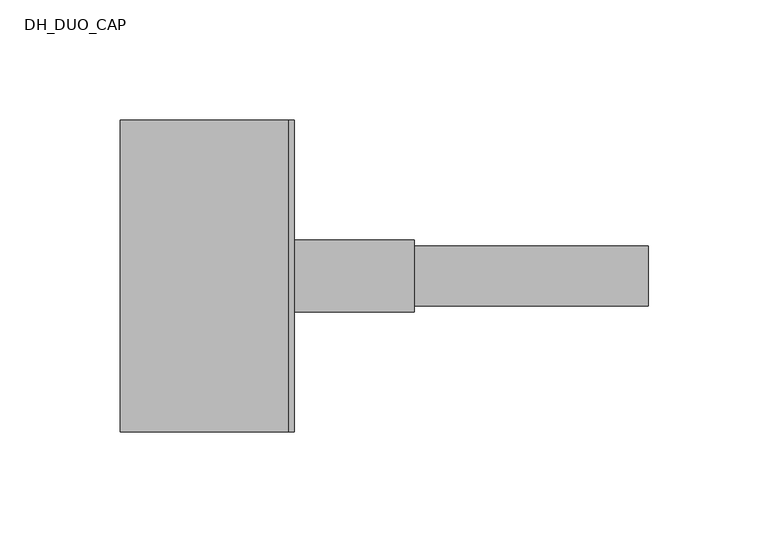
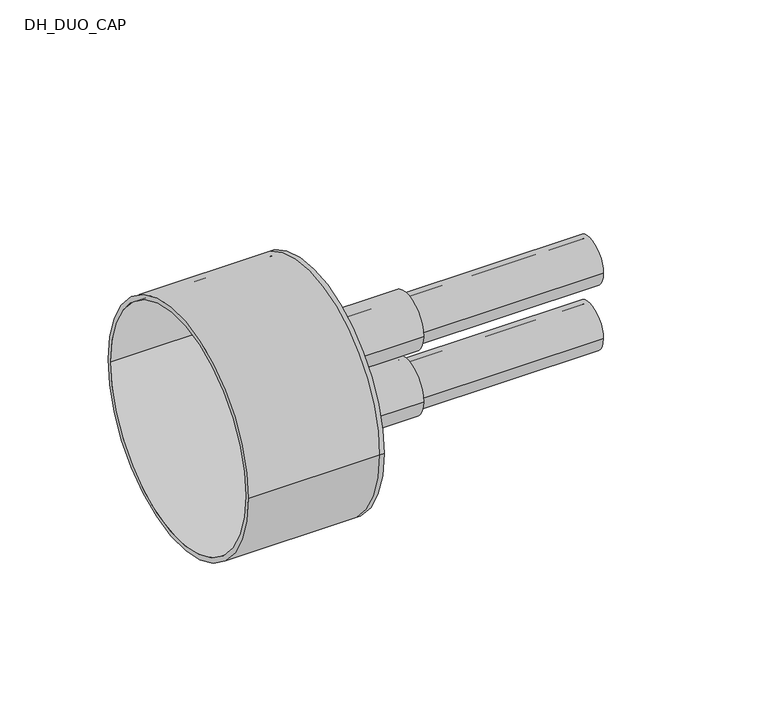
"""IFC4 building model written with IfcOpenShell, lengths in millimetres: pipe fitting geometry, DH_DUO_CAP : RAUVIPEX DUO 11 Heating - Rubber Cap."""

from ifc_helpers import new_model, si_unit, point, frame, frame_2d, origin, place, context, project, spatial, polyline, circle_curve, trimmed, segment, composite_curve, outline, extrude, source, transform, mapped, element, save
from ifc_brep_helpers import plane_surface, cylinder_surface, revolved_surface, advanced_brep


def dh_duo_cap_ada487e7(model_context):
    return source(origin(), model_context, "Body", "SolidModel", [
        extrude(outline(composite_curve([segment(trimmed(circle_curve(frame_2d((0.0, -18.5)), 12.5), [point((-12.5, -18.5))], [point((12.5, -18.5))], False, "CARTESIAN"), True, "CONTINUOUS"), segment(trimmed(circle_curve(frame_2d((0.0, -18.5)), 12.5), [point((12.5, -18.5))], [point((-12.5, -18.5))], False, "CARTESIAN"), True, "CONTINUOUS")], self_intersect=False), holes=[composite_curve([segment(trimmed(circle_curve(frame_2d((0.0, -18.5)), 10.2), [point((-10.2, -18.5))], [point((10.2, -18.5))], True, "CARTESIAN"), True, "CONTINUOUS"), segment(trimmed(circle_curve(frame_2d((0.0, -18.5)), 10.2), [point((10.2, -18.5))], [point((-10.2, -18.5))], True, "CARTESIAN"), True, "CONTINUOUS")], self_intersect=False)]), frame((0.0, 0.0, 0.0), z_axis=(1.0, 0.0, 0.0), x_axis=(0.0, 1.0, 0.0)), (0.0, 0.0, 1.0), 150.0),
        extrude(outline(composite_curve([segment(trimmed(circle_curve(frame_2d((0.0, 18.5)), 12.5), [point((-12.5, 18.5))], [point((12.5, 18.5))], False, "CARTESIAN"), True, "CONTINUOUS"), segment(trimmed(circle_curve(frame_2d((0.0, 18.5)), 12.5), [point((12.5, 18.5))], [point((-12.5, 18.5))], False, "CARTESIAN"), True, "CONTINUOUS")], self_intersect=False), holes=[composite_curve([segment(trimmed(circle_curve(frame_2d((0.0, 18.5)), 10.2), [point((-10.2, 18.5))], [point((10.2, 18.5))], True, "CARTESIAN"), True, "CONTINUOUS"), segment(trimmed(circle_curve(frame_2d((0.0, 18.5)), 10.2), [point((10.2, 18.5))], [point((-10.2, 18.5))], True, "CARTESIAN"), True, "CONTINUOUS")], self_intersect=False)]), frame((0.0, 0.0, 0.0), z_axis=(1.0, 0.0, 0.0), x_axis=(0.0, 1.0, 0.0)), (0.0, 0.0, 1.0), 150.0),
        advanced_brep(
        [(-70.0, -65.0, 0.0), (-70.0, 65.0, 0.0), (-70.0, -62.5, 0.0), (-70.0, 62.5, 0.0), (0.0, -62.5, 0.0), (0.0, 62.5, 0.0), (0.0, -65.0, 0.0), (0.0, 65.0, 0.0), (0.0, 12.5, 18.5), (0.0, -12.5, 18.5), (0.0, 12.5, -18.5), (0.0, -12.5, -18.5), (2.5, -65.0, 0.0), (2.5, 65.0, 0.0), (2.5, -12.5, 18.5), (2.5, 12.5, 18.5), (2.5, -12.5, -18.5), (2.5, 12.5, -18.5)],
        [
            (0, 1, circle_curve(frame((-70.0, 0.0, 0.0), z_axis=(-1.0, 0.0, 0.0), x_axis=(0.0, 1.0, 0.0)), 65.0)),
            (1, 0, circle_curve(frame((-70.0, 0.0, 0.0), z_axis=(-1.0, 0.0, 0.0), x_axis=(0.0, 1.0, 0.0)), 65.0)),
            (2, 3, circle_curve(frame((-70.0, 0.0, 0.0), z_axis=(1.0, 0.0, 0.0), x_axis=(0.0, 1.0, 0.0)), 62.5)),
            (3, 2, circle_curve(frame((-70.0, 0.0, 0.0), z_axis=(1.0, 0.0, 0.0), x_axis=(0.0, 1.0, 0.0)), 62.5)),
            (2, 4),
            (4, 5, circle_curve(frame((0.0, 0.0, 0.0), z_axis=(1.0, 0.0, 0.0), x_axis=(0.0, 1.0, 0.0)), 62.5)),
            (5, 3),
            (5, 4, circle_curve(frame((0.0, 0.0, 0.0), z_axis=(1.0, 0.0, 0.0), x_axis=(0.0, 1.0, 0.0)), 62.5)),
            (0, 6),
            (6, 7, circle_curve(frame((0.0, 0.0, 0.0), z_axis=(-1.0, 0.0, 0.0), x_axis=(0.0, 1.0, 0.0)), 65.0)),
            (7, 1),
            (7, 6, circle_curve(frame((0.0, 0.0, 0.0), z_axis=(-1.0, 0.0, 0.0), x_axis=(0.0, 1.0, 0.0)), 65.0)),
            (8, 9, circle_curve(frame((0.0, 0.0, 18.5), z_axis=(1.0, 0.0, 0.0), x_axis=(0.0, 1.0, 0.0)), 12.5)),
            (9, 8, circle_curve(frame((0.0, 0.0, 18.5), z_axis=(1.0, 0.0, 0.0), x_axis=(0.0, 1.0, 0.0)), 12.5)),
            (10, 11, circle_curve(frame((0.0, 0.0, -18.5), z_axis=(1.0, 0.0, 0.0), x_axis=(0.0, 1.0, 0.0)), 12.5)),
            (11, 10, circle_curve(frame((0.0, 0.0, -18.5), z_axis=(1.0, 0.0, 0.0), x_axis=(0.0, 1.0, 0.0)), 12.5)),
            (12, 13, circle_curve(frame((2.5, 0.0, 0.0), z_axis=(1.0, 0.0, 0.0), x_axis=(0.0, 1.0, 0.0)), 65.0)),
            (13, 12, circle_curve(frame((2.5, 0.0, 0.0), z_axis=(1.0, 0.0, 0.0), x_axis=(0.0, 1.0, 0.0)), 65.0)),
            (14, 15, circle_curve(frame((2.5, 0.0, 18.5), z_axis=(-1.0, 0.0, 0.0), x_axis=(0.0, 1.0, 0.0)), 12.5)),
            (15, 14, circle_curve(frame((2.5, 0.0, 18.5), z_axis=(-1.0, 0.0, 0.0), x_axis=(0.0, 1.0, 0.0)), 12.5)),
            (16, 17, circle_curve(frame((2.5, 0.0, -18.5), z_axis=(-1.0, 0.0, 0.0), x_axis=(0.0, 1.0, 0.0)), 12.5)),
            (17, 16, circle_curve(frame((2.5, 0.0, -18.5), z_axis=(-1.0, 0.0, 0.0), x_axis=(0.0, 1.0, 0.0)), 12.5)),
            (13, 7),
            (6, 12),
            (8, 15),
            (14, 9),
            (10, 17),
            (16, 11),
        ],
        [
            plane_surface(frame((-70.0, 0.0, 0.0), z_axis=(-1.0, 0.0, 0.0), x_axis=(0.0, 0.0, 1.0))),
            revolved_surface(polyline([(0.0, 62.5, 0.0), (-70.0, 62.5, 0.0)]), (-70.0, 0.0, 0.0), (1.0, 0.0, 0.0)),
            cylinder_surface(frame((-70.0, 0.0, 0.0), z_axis=(-1.0, 0.0, 0.0), x_axis=(0.0, 1.0, 0.0)), 65.0),
            plane_surface(frame((0.0, 0.0, 0.0), z_axis=(-1.0, 0.0, 0.0), x_axis=(0.0, 0.0, 1.0))),
            plane_surface(frame((2.5, 0.0, 0.0), z_axis=(1.0, 0.0, 0.0), x_axis=(0.0, 0.0, 1.0))),
            cylinder_surface(frame((0.0, 0.0, 0.0), z_axis=(-1.0, 0.0, 0.0), x_axis=(0.0, 1.0, 0.0)), 65.0),
            revolved_surface(polyline([(0.0, 12.5, 18.5), (2.5, 12.5, 18.5)]), (0.0, 0.0, 18.5), (-1.0, 0.0, 0.0)),
            revolved_surface(polyline([(0.0, 12.5, -18.5), (2.5, 12.5, -18.5)]), (0.0, 0.0, -18.5), (-1.0, 0.0, 0.0)),
        ],
        [
            (0, [[1, 2], [3, 4]]),
            (1, [[-3, 5, 6, 7]]),
            (1, [[-4, -7, 8, -5]]),
            (2, [[-1, 9, 10, 11]]),
            (2, [[-2, -11, 12, -9]]),
            (3, [[-6, -8], [13, 14], [15, 16]]),
            (4, [[17, 18], [19, 20], [21, 22]]),
            (5, [[-18, 23, -10, 24]]),
            (5, [[-17, -24, -12, -23]]),
            (6, [[25, -19, 26, -13]]),
            (6, [[-25, -14, -26, -20]]),
            (7, [[27, -21, 28, -15]]),
            (7, [[-27, -16, -28, -22]]),
        ],
    ),
        extrude(outline(composite_curve([segment(trimmed(circle_curve(frame_2d((0.0, -18.5)), 15.0), [point((-15.0, -18.5))], [point((15.0, -18.5))], False, "CARTESIAN"), True, "CONTINUOUS"), segment(trimmed(circle_curve(frame_2d((0.0, -18.5)), 15.0), [point((15.0, -18.5))], [point((-15.0, -18.5))], False, "CARTESIAN"), True, "CONTINUOUS")], self_intersect=False), holes=[composite_curve([segment(trimmed(circle_curve(frame_2d((0.0, -18.5)), 12.5), [point((-12.5, -18.5))], [point((12.5, -18.5))], True, "CARTESIAN"), True, "CONTINUOUS"), segment(trimmed(circle_curve(frame_2d((0.0, -18.5)), 12.5), [point((12.5, -18.5))], [point((-12.5, -18.5))], True, "CARTESIAN"), True, "CONTINUOUS")], self_intersect=False)]), frame((2.5, 0.0, 0.0), z_axis=(1.0, 0.0, 0.0), x_axis=(0.0, 1.0, 0.0)), (0.0, 0.0, 1.0), 50.0),
        extrude(outline(composite_curve([segment(trimmed(circle_curve(frame_2d((0.0, 18.5)), 15.0), [point((-15.0, 18.5))], [point((15.0, 18.5))], False, "CARTESIAN"), True, "CONTINUOUS"), segment(trimmed(circle_curve(frame_2d((0.0, 18.5)), 15.0), [point((15.0, 18.5))], [point((-15.0, 18.5))], False, "CARTESIAN"), True, "CONTINUOUS")], self_intersect=False), holes=[composite_curve([segment(trimmed(circle_curve(frame_2d((0.0, 18.5)), 12.5), [point((-12.5, 18.5))], [point((12.5, 18.5))], True, "CARTESIAN"), True, "CONTINUOUS"), segment(trimmed(circle_curve(frame_2d((0.0, 18.5)), 12.5), [point((12.5, 18.5))], [point((-12.5, 18.5))], True, "CARTESIAN"), True, "CONTINUOUS")], self_intersect=False)]), frame((2.5, 0.0, 0.0), z_axis=(1.0, 0.0, 0.0), x_axis=(0.0, 1.0, 0.0)), (0.0, 0.0, 1.0), 50.0),
    ])


if __name__ == "__main__":
    model = new_model("IFC4")
    model_context = context("Model", 3, world=origin())
    ifc_project = project(units=[si_unit("LENGTHUNIT", "METRE", prefix="MILLI")], contexts=[model_context])
    site = spatial("IfcSite", under=ifc_project)
    building = spatial("IfcBuilding", under=site)
    placement = place(None, origin())
    dh_duo_cap_shape = dh_duo_cap_ada487e7(model_context)
    element("IfcPipeFitting", 1, ObjectType="DH_DUO_CAP : RAUVIPEX DUO 11 Heating - Rubber Cap", at=placement, inside=building, context=model_context, shape_type="MappedRepresentation", body=[
        mapped(dh_duo_cap_shape, transform((0.0, 0.0, 0.0), x_axis=(1.0, 0.0, 0.0), y_axis=(0.0, 1.0, 0.0), z_axis=(0.0, 0.0, 1.0))),
    ])
    save(model, "model.ifc")
